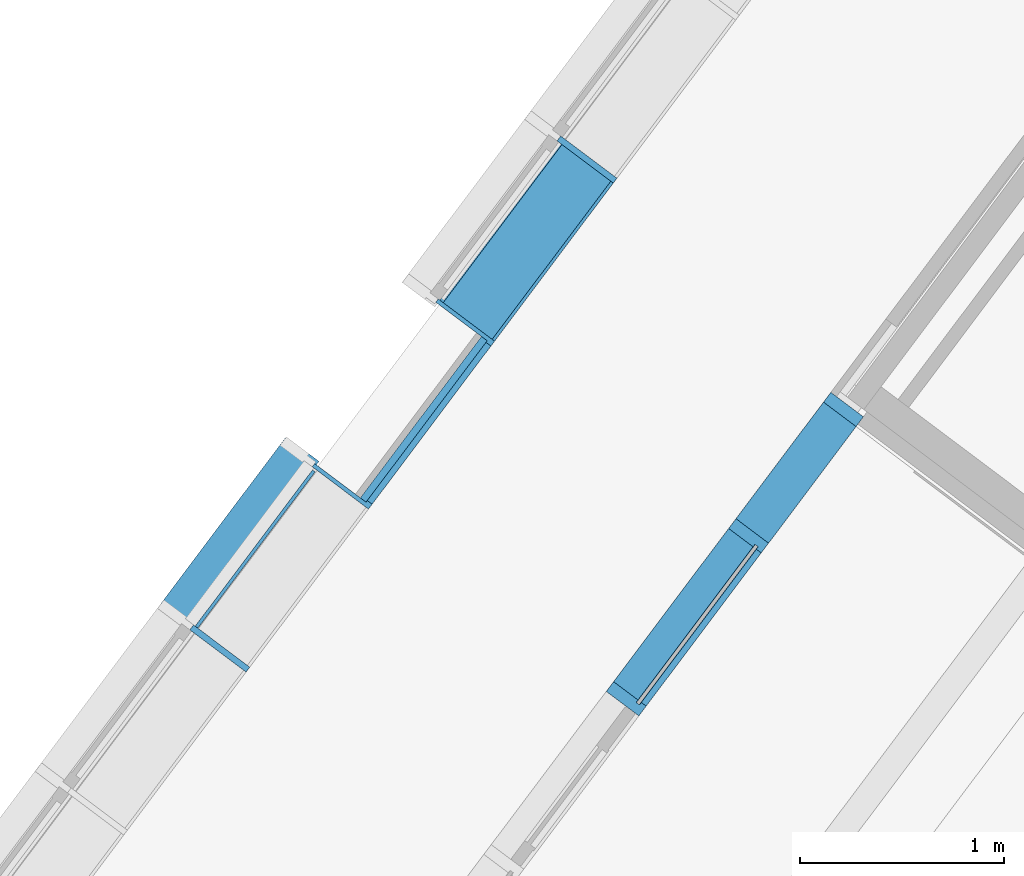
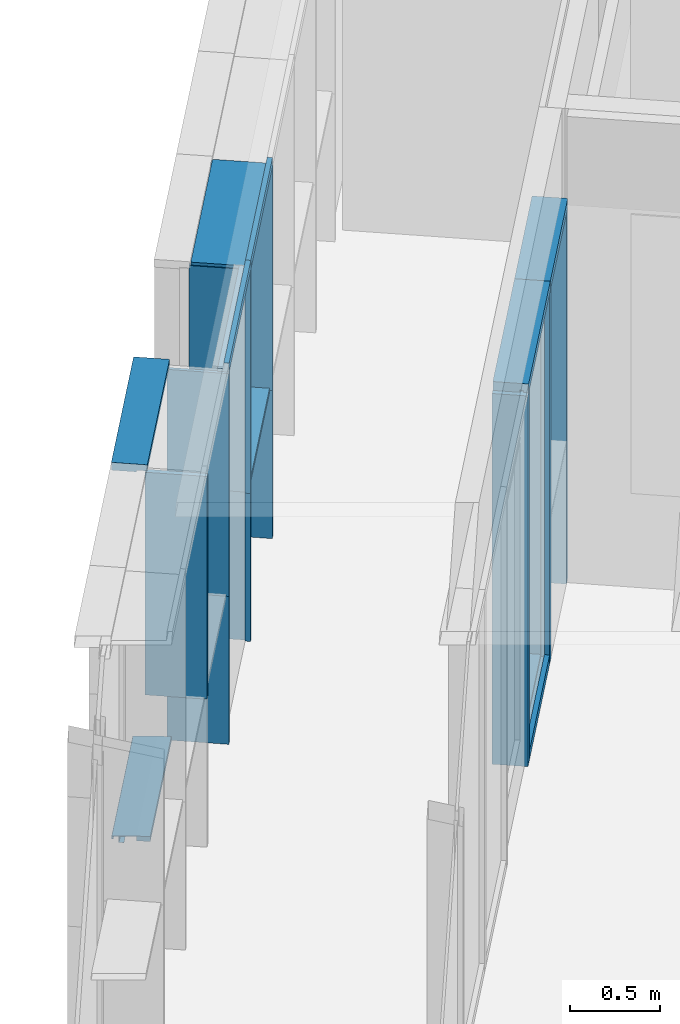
# One storey, part 60 of 243: 18 members, 3 elements without a shape of their own.
"""IFC2X3 building model written with IfcOpenShell, lengths in metres."""

from ifc_helpers import new_model, entity, si_unit, converted_unit, derived_unit, direction, frame, frame_2d, origin, place, context, subcontext, project, spatial, polyline, circle_curve, parameter, trimmed, segment, composite_curve, rectangle, outline, extrude, source, transform, mapped, material, type_object, type_shapes, element, aggregate, save


model = new_model("IFC2X3")

# Units and contexts
model_context = context("Model", 3, precision=1e-05, world=origin(), true_north=direction((6.123031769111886e-17, 1.0)))
body_context = subcontext(model_context, "Body", "Model", "MODEL_VIEW")
ifc_project = project(units=[si_unit("LENGTHUNIT", "METRE"), si_unit("AREAUNIT", "SQUARE_METRE"), si_unit("VOLUMEUNIT", "CUBIC_METRE"), converted_unit("PLANEANGLEUNIT", "DEGREE", entity("IfcRatioMeasure", 0.017453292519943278), si_unit("PLANEANGLEUNIT", "RADIAN"), dimensions=[0, 0, 0, 0, 0, 0, 0]), si_unit("MASSUNIT", "GRAM", prefix="KILO"), derived_unit("MASSDENSITYUNIT", [(si_unit("MASSUNIT", "GRAM", prefix="KILO"), 1), (si_unit("LENGTHUNIT", "METRE"), -3)]), derived_unit("IONCONCENTRATIONUNIT", [(si_unit("MASSUNIT", "GRAM", prefix="KILO"), 1), (si_unit("LENGTHUNIT", "METRE"), -3)]), derived_unit("MOMENTOFINERTIAUNIT", [(si_unit("LENGTHUNIT", "METRE"), 4)]), si_unit("TIMEUNIT", "SECOND"), si_unit("FREQUENCYUNIT", "HERTZ"), si_unit("THERMODYNAMICTEMPERATUREUNIT", "DEGREE_CELSIUS"), derived_unit("THERMALTRANSMITTANCEUNIT", [(si_unit("MASSUNIT", "GRAM", prefix="KILO"), 1), (si_unit("THERMODYNAMICTEMPERATUREUNIT", "KELVIN"), -1), (si_unit("TIMEUNIT", "SECOND"), -3)]), derived_unit("THERMALCONDUCTANCEUNIT", [(si_unit("MASSUNIT", "GRAM", prefix="KILO"), 1), (si_unit("THERMODYNAMICTEMPERATUREUNIT", "KELVIN"), -1), (si_unit("TIMEUNIT", "SECOND"), -3), (si_unit("LENGTHUNIT", "METRE"), 1)]), derived_unit("VOLUMETRICFLOWRATEUNIT", [(si_unit("LENGTHUNIT", "METRE"), 3), (si_unit("TIMEUNIT", "SECOND"), -1)]), derived_unit("MASSFLOWRATEUNIT", [(si_unit("MASSUNIT", "GRAM", prefix="KILO"), 1), (si_unit("TIMEUNIT", "SECOND"), -1)]), derived_unit("ROTATIONALFREQUENCYUNIT", [(si_unit("TIMEUNIT", "SECOND"), -1)]), si_unit("ELECTRICCURRENTUNIT", "AMPERE"), si_unit("ELECTRICVOLTAGEUNIT", "VOLT"), si_unit("POWERUNIT", "WATT"), si_unit("FORCEUNIT", "NEWTON", prefix="KILO"), si_unit("ILLUMINANCEUNIT", "LUX"), si_unit("LUMINOUSFLUXUNIT", "LUMEN"), si_unit("LUMINOUSINTENSITYUNIT", "CANDELA"), derived_unit("USERDEFINED", [(si_unit("MASSUNIT", "GRAM", prefix="KILO"), -1), (si_unit("LENGTHUNIT", "METRE"), -2), (si_unit("TIMEUNIT", "SECOND"), 3), (si_unit("LUMINOUSFLUXUNIT", "LUMEN"), 1)]), derived_unit("USERDEFINED", [(si_unit("MASSUNIT", "GRAM", prefix="KILO"), 1), (si_unit("TIMEUNIT", "SECOND"), -3), (si_unit("LENGTHUNIT", "METRE"), 3), (si_unit("ELECTRICCURRENTUNIT", "AMPERE"), -2)]), derived_unit("SOUNDPOWERUNIT", [(si_unit("MASSUNIT", "GRAM", prefix="KILO"), 1), (si_unit("TIMEUNIT", "SECOND"), -3), (si_unit("LENGTHUNIT", "METRE"), 2)]), derived_unit("SOUNDPRESSUREUNIT", [(si_unit("MASSUNIT", "GRAM", prefix="KILO"), 1), (si_unit("LENGTHUNIT", "METRE"), -1), (si_unit("TIMEUNIT", "SECOND"), -2)]), derived_unit("LINEARVELOCITYUNIT", [(si_unit("LENGTHUNIT", "METRE"), 1), (si_unit("TIMEUNIT", "SECOND"), -1)]), si_unit("PRESSUREUNIT", "PASCAL"), derived_unit("USERDEFINED", [(si_unit("MASSUNIT", "GRAM", prefix="KILO"), 1), (si_unit("LENGTHUNIT", "METRE"), -2), (si_unit("TIMEUNIT", "SECOND"), -2)]), derived_unit("LINEARFORCEUNIT", [(si_unit("MASSUNIT", "GRAM", prefix="KILO"), 1), (si_unit("TIMEUNIT", "SECOND"), -2)]), derived_unit("PLANARFORCEUNIT", [(si_unit("MASSUNIT", "GRAM", prefix="KILO"), 1), (si_unit("LENGTHUNIT", "METRE"), -1), (si_unit("TIMEUNIT", "SECOND"), -2)]), derived_unit("SPECIFICHEATCAPACITYUNIT", [(si_unit("THERMODYNAMICTEMPERATUREUNIT", "KELVIN"), -1), (si_unit("LENGTHUNIT", "METRE"), 2), (si_unit("TIMEUNIT", "SECOND"), -2)]), derived_unit("HEATINGVALUEUNIT", [(si_unit("LENGTHUNIT", "METRE"), 2), (si_unit("TIMEUNIT", "SECOND"), -2)]), derived_unit("VAPORPERMEABILITYUNIT", [(si_unit("LENGTHUNIT", "METRE"), -1), (si_unit("TIMEUNIT", "SECOND"), 1)]), derived_unit("DYNAMICVISCOSITYUNIT", [(si_unit("MASSUNIT", "GRAM", prefix="KILO"), 1), (si_unit("TIMEUNIT", "SECOND"), -1), (si_unit("LENGTHUNIT", "METRE"), -1)]), derived_unit("THERMALEXPANSIONCOEFFICIENTUNIT", [(si_unit("THERMODYNAMICTEMPERATUREUNIT", "KELVIN"), -1)]), derived_unit("MODULUSOFELASTICITYUNIT", [(si_unit("MASSUNIT", "GRAM", prefix="KILO"), 1), (si_unit("LENGTHUNIT", "METRE"), -1), (si_unit("TIMEUNIT", "SECOND"), -2)]), derived_unit("ISOTHERMALMOISTURECAPACITYUNIT", [(si_unit("LENGTHUNIT", "METRE"), 3), (si_unit("MASSUNIT", "GRAM", prefix="KILO"), -1)]), derived_unit("MOISTUREDIFFUSIVITYUNIT", [(si_unit("TIMEUNIT", "SECOND"), -1), (si_unit("LENGTHUNIT", "METRE"), 2)])], contexts=[model_context])

# Site, building, storey
site_placement = place(None, frame((0.0, 0.0, 235.0), z_axis=(0.0, 0.0, 1.0), x_axis=(-0.7996477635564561, 0.6004693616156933, 0.0)))
site = spatial("IfcSite", under=ifc_project, at=site_placement, Name="Default", CompositionType="ELEMENT")
building_placement = place(site_placement, origin())
building = spatial("IfcBuilding", under=site, at=building_placement, CompositionType="ELEMENT")
storey_placement = place(building_placement, origin())
storey = spatial("IfcBuildingStorey", under=building, at=storey_placement, Name="P0- Escola", CompositionType="ELEMENT", Elevation=0.0)

# Curtain wall, members
curtain_wall_type_1 = type_object("IfcCurtainWallType", Name="Muro cortina:MC- INT- a1", PredefinedType="NOTDEFINED")
curtain_wall_1_placement = place(storey_placement, origin())
curtain_wall_1 = element("IfcCurtainWall", 1, at=curtain_wall_1_placement, inside=storey, type_object=curtain_wall_type_1, Name="Muro cortina:MC- INT- a1", ObjectType="Muro cortina:MC- INT- a1")
ifc_material_1 = material(Name="_Fusta massisa- T1")
member_type_1 = type_object("IfcMemberType", Name="Montante rectangular:MC- Fusta- 20x6 cm- Neutre", PredefinedType="MULLION", material=ifc_material_1)
shared_shape_1 = source(origin(), body_context, "Body", "SweptSolid", [
    extrude(rectangle(XDim=0.2, YDim=0.060000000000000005, at=frame_2d((-4.85722573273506e-17, -3.469446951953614e-18), x_axis=(1.0, 0.0))), frame((-0.03, -0.060000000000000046, -0.8050000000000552), z_axis=(0.0, 0.0, 1.0), x_axis=(0.0, -1.0, 0.0)), (0.0, 0.0, 1.0), 0.8050000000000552),
])
type_shapes(member_type_1, [shared_shape_1])
member_1_placement = place(curtain_wall_1_placement, frame((72.72014768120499, -36.22018997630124, 2.565), z_axis=(0.0, -1.0, 0.0), x_axis=(0.0, 0.0, 1.0)))
member_1 = element("IfcMember", 2, at=member_1_placement, type_object=member_type_1, material=ifc_material_1, Name="Montante rectangular:MC- Fusta- 20x6 cm- Neutre", ObjectType="Montante rectangular:MC- Fusta- 20x6 cm- Neutre", context=body_context, shape_type="MappedRepresentation", body=[
    mapped(shared_shape_1, transform((0.0, 0.0, 0.0), scale=1.0)),
])
member_type_2 = type_object("IfcMemberType", Name="Montante rectangular:MC- Fusta- 20x6 cm- Neutre", PredefinedType="MULLION", material=ifc_material_1)
shared_shape_2 = source(origin(), body_context, "Body", "SweptSolid", [
    extrude(rectangle(XDim=0.2, YDim=0.060000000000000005, at=frame_2d((-4.85722573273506e-17, -3.469446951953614e-18), x_axis=(1.0, 0.0))), frame((-0.03, -0.060000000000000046, -2.5050000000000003), z_axis=(0.0, 0.0, 1.0), x_axis=(0.0, -1.0, 0.0)), (0.0, 0.0, 1.0), 2.5050000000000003),
])
type_shapes(member_type_2, [shared_shape_2])
member_2_placement = place(curtain_wall_1_placement, frame((72.72014768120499, -36.22018997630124, 0.0), z_axis=(0.0, 0.0, -1.0), x_axis=(0.0, -1.0, 0.0)))
member_2 = element("IfcMember", 3, at=member_2_placement, type_object=member_type_2, material=ifc_material_1, Name="Montante rectangular:MC- Fusta- 20x6 cm- Neutre", ObjectType="Montante rectangular:MC- Fusta- 20x6 cm- Neutre", context=body_context, shape_type="MappedRepresentation", body=[
    mapped(shared_shape_2, transform((0.0, 0.0, 0.0), scale=1.0)),
])
member_type_3 = type_object("IfcMemberType", Name="Montante rectangular:MC- Fusta- 20x6 cm- Esquerra", PredefinedType="MULLION", material=ifc_material_1)
shared_shape_3 = source(origin(), body_context, "Body", "SweptSolid", [
    extrude(outline(polyline([(-0.07000000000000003, -0.01875000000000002), (-0.04000000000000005, -0.01875000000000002), (-0.04000000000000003, -0.0037500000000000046), (-0.020000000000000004, -0.0037500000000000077), (-0.02, -0.018750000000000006), (0.13, -0.018749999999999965), (0.12999999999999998, 0.04125000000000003), (-0.06999999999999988, 0.04124999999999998), (-0.07000000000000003, -0.01875000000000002)])), frame((-0.041249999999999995, -0.03, -1.0), z_axis=(0.0, 0.0, 1.0), x_axis=(0.0, -1.0, 0.0)), (0.0, 0.0, 1.0), 0.9999999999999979),
])
type_shapes(member_type_3, [shared_shape_3])
member_3_placement = place(curtain_wall_1_placement, frame((72.72014768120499, -35.415189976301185, 2.565), z_axis=(0.0, -1.0, 0.0), x_axis=(0.0, 0.0, 1.0)))
member_3 = element("IfcMember", 4, at=member_3_placement, type_object=member_type_3, material=ifc_material_1, Name="Montante rectangular:MC- Fusta- 20x6 cm- Esquerra", ObjectType="Montante rectangular:MC- Fusta- 20x6 cm- Esquerra", context=body_context, shape_type="MappedRepresentation", body=[
    mapped(shared_shape_3, transform((0.0, 0.0, 0.0), scale=1.0)),
])
member_type_4 = type_object("IfcMemberType", Name="Montante rectangular:MC- Fusta- 20x6 cm- Esquerra", PredefinedType="MULLION", material=ifc_material_1)
shared_shape_4 = source(origin(), body_context, "Body", "SweptSolid", [
    extrude(outline(polyline([(-0.07000000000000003, -0.01875000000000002), (-0.04000000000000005, -0.01875000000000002), (-0.04000000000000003, -0.0037500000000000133), (-0.020000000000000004, -0.0037500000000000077), (-0.02, -0.018750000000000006), (0.13, -0.018749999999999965), (0.12999999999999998, 0.04125000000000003), (-0.06999999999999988, 0.04124999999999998), (-0.07000000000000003, -0.01875000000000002)])), frame((-0.01124999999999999, -0.03, -2.5050000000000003), z_axis=(0.0, 0.0, 1.0), x_axis=(0.0, -1.0, 0.0)), (0.0, 0.0, 1.0), 2.5050000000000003),
])
type_shapes(member_type_4, [shared_shape_4])
member_4_placement = place(curtain_wall_1_placement, frame((72.72014768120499, -35.415189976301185, 0.0), z_axis=(0.0, 0.0, -1.0), x_axis=(0.0, -1.0, 0.0)))
member_4 = element("IfcMember", 5, at=member_4_placement, type_object=member_type_4, material=ifc_material_1, Name="Montante rectangular:MC- Fusta- 20x6 cm- Esquerra", ObjectType="Montante rectangular:MC- Fusta- 20x6 cm- Esquerra", context=body_context, shape_type="MappedRepresentation", body=[
    mapped(shared_shape_4, transform((0.0, 0.0, 0.0), scale=1.0)),
])
member_type_5 = type_object("IfcMemberType", Name="Montante rectangular:MC- Fusta- 20x6 cm- Dreta", PredefinedType="MULLION", material=ifc_material_1)
shared_shape_5 = source(origin(), body_context, "Body", "SweptSolid", [
    extrude(outline(polyline([(-0.07000000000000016, -0.041249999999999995), (0.13000000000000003, -0.041249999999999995), (0.13000000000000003, 0.01875), (-0.019999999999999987, 0.01875), (-0.019999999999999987, 0.00375), (-0.04000000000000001, 0.00375), (-0.03999999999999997, 0.01875), (-0.06999999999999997, 0.01875), (-0.07000000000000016, -0.041249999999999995)])), frame((0.011250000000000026, -0.02999999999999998, -2.5050000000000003), z_axis=(0.0, 0.0, 1.0), x_axis=(0.0, -1.0, 0.0)), (0.0, 0.0, 1.0), 2.5050000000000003),
])
type_shapes(member_type_5, [shared_shape_5])
member_5_placement = place(curtain_wall_1_placement, frame((72.72014768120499, -34.41518997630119, 0.0), z_axis=(0.0, 0.0, -1.0), x_axis=(0.0, -1.0, 0.0)))
member_5 = element("IfcMember", 6, at=member_5_placement, type_object=member_type_5, material=ifc_material_1, Name="Montante rectangular:MC- Fusta- 20x6 cm- Dreta", ObjectType="Montante rectangular:MC- Fusta- 20x6 cm- Dreta", context=body_context, shape_type="MappedRepresentation", body=[
    mapped(shared_shape_5, transform((0.0, 0.0, 0.0), scale=1.0)),
])
member_type_6 = type_object("IfcMemberType", Name="Montante rectangular:MC- Fusta- 20x6 cm- Inferior", PredefinedType="MULLION", material=ifc_material_1)
shared_shape_6 = source(origin(), body_context, "Body", "SweptSolid", [
    extrude(outline(polyline([(-0.06999999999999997, -0.018750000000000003), (-0.039999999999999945, -0.018750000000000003), (-0.03999999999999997, -0.003750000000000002), (-0.019999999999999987, -0.0037500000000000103), (-0.019999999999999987, -0.018750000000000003), (0.13000000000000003, -0.018750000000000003), (0.13000000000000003, 0.041249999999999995), (-0.07000000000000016, 0.041249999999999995), (-0.06999999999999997, -0.018750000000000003)])), frame((-0.041249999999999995, -0.02999999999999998, -0.9399999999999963), z_axis=(0.0, 0.0, 1.0), x_axis=(0.0, -1.0, 0.0)), (0.0, 0.0, 1.0), 0.9399999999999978),
])
type_shapes(member_type_6, [shared_shape_6])
member_6_placement = place(curtain_wall_1_placement, frame((72.72014768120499, -34.445189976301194, 0.0), z_axis=(0.0, 1.0, 0.0), x_axis=(0.0, 0.0, -1.0)))
member_6 = element("IfcMember", 7, at=member_6_placement, type_object=member_type_6, material=ifc_material_1, Name="Montante rectangular:MC- Fusta- 20x6 cm- Inferior", ObjectType="Montante rectangular:MC- Fusta- 20x6 cm- Inferior", context=body_context, shape_type="MappedRepresentation", body=[
    mapped(shared_shape_6, transform((0.0, 0.0, 0.0), scale=1.0)),
])
aggregate(curtain_wall_1, [member_1, member_2, member_3, member_4, member_5, member_6])

curtain_wall_type_2 = type_object("IfcCurtainWallType", Name="Muro cortina:MC- INT- k2", PredefinedType="NOTDEFINED")
curtain_wall_2_placement = place(storey_placement, origin())
curtain_wall_2 = element("IfcCurtainWall", 8, at=curtain_wall_2_placement, inside=storey, type_object=curtain_wall_type_2, Name="Muro cortina:MC- INT- k2", ObjectType="Muro cortina:MC- INT- k2")
member_type_7 = type_object("IfcMemberType", Name="Montante rectangular:MC- Fusta- 35x3 cm- Pati aules- Remat superior", PredefinedType="MULLION", material=ifc_material_1)
shared_shape_7 = source(origin(), body_context, "Body", "SweptSolid", [
    extrude(outline(polyline([(-0.12166666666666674, -0.02666666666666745), (0.21333333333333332, -0.02666666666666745), (0.2133333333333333, -0.006666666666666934), (-0.09166666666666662, -0.006666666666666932), (-0.09166666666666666, 0.03333333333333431), (-0.12166666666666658, 0.03333333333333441), (-0.12166666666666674, -0.02666666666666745)])), frame((-0.033333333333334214, -0.026666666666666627, -1.0), z_axis=(0.0, 0.0, 1.0), x_axis=(0.0, -1.0, 0.0)), (0.0, 0.0, 1.0), 0.9999999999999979),
])
type_shapes(member_type_7, [shared_shape_7])
member_7_placement = place(curtain_wall_2_placement, frame((74.44514768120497, -36.4151917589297, 2.565), z_axis=(0.0, -1.0, 0.0), x_axis=(0.0, 0.0, 1.0)))
member_7 = element("IfcMember", 9, at=member_7_placement, type_object=member_type_7, material=ifc_material_1, Name="Montante rectangular:MC- Fusta- 35x3 cm- Pati aules- Remat superior", ObjectType="Montante rectangular:MC- Fusta- 35x3 cm- Pati aules- Remat superior", context=body_context, shape_type="MappedRepresentation", body=[
    mapped(shared_shape_7, transform((0.0, 0.0, 0.0), scale=1.0)),
])
member_type_8 = type_object("IfcMemberType", Name="Montante rectangular:MC- Fusta- 35x3 cm- Centre", PredefinedType="MULLION", material=ifc_material_1)
shared_shape_8 = source(origin(), body_context, "Body", "SweptSolid", [
    extrude(rectangle(XDim=0.3450000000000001, YDim=0.030000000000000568, at=frame_2d((0.0, -1.3964523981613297e-16), x_axis=(1.0, 0.0))), frame((0.0, -0.07750000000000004, -1.0), z_axis=(0.0, 0.0, 1.0), x_axis=(0.0, -1.0, 0.0)), (0.0, 0.0, 1.0), 1.0),
])
type_shapes(member_type_8, [shared_shape_8])
member_8_placement = place(curtain_wall_2_placement, frame((74.44514768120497, -36.4151917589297, 0.0), z_axis=(0.0, 0.0, -1.0), x_axis=(0.0, -1.0, 0.0)))
member_8 = element("IfcMember", 10, at=member_8_placement, type_object=member_type_8, material=ifc_material_1, Name="Montante rectangular:MC- Fusta- 35x3 cm- Centre", ObjectType="Montante rectangular:MC- Fusta- 35x3 cm- Centre", context=body_context, shape_type="MappedRepresentation", body=[
    mapped(shared_shape_8, transform((0.0, 0.0, 0.0), scale=1.0)),
])
member_type_9 = type_object("IfcMemberType", Name="Montante rectangular:MC- Fusta- 35x3 cm- Pati aules- Remat dreta", PredefinedType="MULLION", material=ifc_material_1)
shared_shape_9 = source(origin(), body_context, "Body", "SweptSolid", [
    extrude(outline(polyline([(-0.12500000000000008, -0.01666666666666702), (0.22, -0.01666666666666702), (0.22000000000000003, 0.003333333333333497), (-0.09499999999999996, 0.003333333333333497), (-0.09499999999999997, 0.013333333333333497), (-0.12500000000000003, 0.013333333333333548), (-0.12500000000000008, -0.01666666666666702)])), frame((0.00166666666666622, -0.03000000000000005, -1.0), z_axis=(0.0, 0.0, 1.0), x_axis=(0.0, -1.0, 0.0)), (0.0, 0.0, 1.0), 1.0),
])
type_shapes(member_type_9, [shared_shape_9])
member_9_placement = place(curtain_wall_2_placement, frame((74.44514768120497, -34.4151917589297, 0.0), z_axis=(0.0, 0.0, -1.0), x_axis=(0.0, -1.0, 0.0)))
member_9 = element("IfcMember", 11, at=member_9_placement, type_object=member_type_9, material=ifc_material_1, Name="Montante rectangular:MC- Fusta- 35x3 cm- Pati aules- Remat dreta", ObjectType="Montante rectangular:MC- Fusta- 35x3 cm- Pati aules- Remat dreta", context=body_context, shape_type="MappedRepresentation", body=[
    mapped(shared_shape_9, transform((0.0, 0.0, 0.0), scale=1.0)),
])
member_type_10 = type_object("IfcMemberType", Name="Montante rectangular:MC- Fusta- 35x3 cm- Pati aules- Remat superior pilar", PredefinedType="MULLION", material=ifc_material_1)
shared_shape_10 = source(origin(), body_context, "Body", "SweptSolid", [
    extrude(outline(polyline([(-0.03166666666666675, -0.02666666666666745), (0.03333333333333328, -0.02666666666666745), (0.03333333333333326, -0.00666666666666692), (-0.0016666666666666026, -0.006666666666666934), (-0.0016666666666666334, 0.03333333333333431), (-0.03166666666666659, 0.03333333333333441), (-0.03166666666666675, -0.02666666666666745)])), frame((-0.03333333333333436, 0.06333333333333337, -1.0), z_axis=(0.0, 0.0, 1.0), x_axis=(0.0, -1.0, 0.0)), (0.0, 0.0, 1.0), 0.9999999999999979),
])
type_shapes(member_type_10, [shared_shape_10])
member_10_placement = place(curtain_wall_2_placement, frame((74.44514768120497, -35.4151917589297, 2.565), z_axis=(0.0, -1.0, 0.0), x_axis=(0.0, 0.0, 1.0)))
member_10 = element("IfcMember", 12, at=member_10_placement, type_object=member_type_10, material=ifc_material_1, Name="Montante rectangular:MC- Fusta- 35x3 cm- Pati aules- Remat superior pilar", ObjectType="Montante rectangular:MC- Fusta- 35x3 cm- Pati aules- Remat superior pilar", context=body_context, shape_type="MappedRepresentation", body=[
    mapped(shared_shape_10, transform((0.0, 0.0, 0.0), scale=1.0)),
])
member_type_11 = type_object("IfcMemberType", Name="Montante rectangular:MC- Fusta- 35x3 cm- Pati aules- Remat esquerra", PredefinedType="MULLION", material=ifc_material_1)
shared_shape_11 = source(origin(), body_context, "Body", "SweptSolid", [
    extrude(outline(polyline([(-0.12500000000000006, -0.013333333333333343), (-0.09500000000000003, -0.013333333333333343), (-0.09499999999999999, -0.0033333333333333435), (0.22000000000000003, -0.003333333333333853), (0.22000000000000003, 0.016666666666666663), (-0.12500000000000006, 0.01666666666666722), (-0.12500000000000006, -0.013333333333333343)])), frame((-0.00166666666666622, -0.03000000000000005, -1.0), z_axis=(0.0, 0.0, 1.0), x_axis=(0.0, -1.0, 0.0)), (0.0, 0.0, 1.0), 1.0),
])
type_shapes(member_type_11, [shared_shape_11])
member_11_placement = place(curtain_wall_2_placement, frame((74.44514768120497, -35.4151917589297, 0.0), z_axis=(0.0, 0.0, -1.0), x_axis=(0.0, -1.0, 0.0)))
member_11 = element("IfcMember", 13, at=member_11_placement, type_object=member_type_11, material=ifc_material_1, Name="Montante rectangular:MC- Fusta- 35x3 cm- Pati aules- Remat esquerra", ObjectType="Montante rectangular:MC- Fusta- 35x3 cm- Pati aules- Remat esquerra", context=body_context, shape_type="MappedRepresentation", body=[
    mapped(shared_shape_11, transform((0.0, 0.0, 0.0), scale=1.0)),
])
member_type_12 = type_object("IfcMemberType", Name="Montante rectangular:MC- Fusta- 35x3 cm- Pati aules- Prestatge", PredefinedType="MULLION", material=ifc_material_1)
shared_shape_12 = source(origin(), body_context, "Body", "SweptSolid", [
    extrude(rectangle(XDim=0.30000000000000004, YDim=0.03000000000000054, at=frame_2d((0.0, -1.231653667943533e-16), x_axis=(1.0, 0.0))), frame((0.0, -0.07000000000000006, -0.9699999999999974), z_axis=(0.0, 0.0, 1.0), x_axis=(0.0, -1.0, 0.0)), (0.0, 0.0, 1.0), 0.969999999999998),
])
type_shapes(member_type_12, [shared_shape_12])
member_12_placement = place(curtain_wall_2_placement, frame((74.44514768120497, -36.400191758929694, 1.0), z_axis=(0.0, -1.0, 0.0), x_axis=(0.0, 0.0, 1.0)))
member_12 = element("IfcMember", 14, at=member_12_placement, type_object=member_type_12, material=ifc_material_1, Name="Montante rectangular:MC- Fusta- 35x3 cm- Pati aules- Prestatge", ObjectType="Montante rectangular:MC- Fusta- 35x3 cm- Pati aules- Prestatge", context=body_context, shape_type="MappedRepresentation", body=[
    mapped(shared_shape_12, transform((0.0, 0.0, 0.0), scale=1.0)),
])
member_type_13 = type_object("IfcMemberType", Name="Montante rectangular:MC- Fusta- 35x3 cm- Centre", PredefinedType="MULLION", material=ifc_material_1)
shared_shape_13 = source(origin(), body_context, "Body", "SweptSolid", [
    extrude(rectangle(XDim=0.3450000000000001, YDim=0.030000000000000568, at=frame_2d((0.0, -1.3964523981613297e-16), x_axis=(1.0, 0.0))), frame((0.0, -0.07750000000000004, -1.504999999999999), z_axis=(0.0, 0.0, 1.0), x_axis=(0.0, -1.0, 0.0)), (0.0, 0.0, 1.0), 1.504999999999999),
])
type_shapes(member_type_13, [shared_shape_13])
member_13_placement = place(curtain_wall_2_placement, frame((74.44514768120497, -33.4151917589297, 1.0), z_axis=(0.0, 0.0, -1.0), x_axis=(0.0, -1.0, 0.0)))
member_13 = element("IfcMember", 15, at=member_13_placement, type_object=member_type_13, material=ifc_material_1, Name="Montante rectangular:MC- Fusta- 35x3 cm- Centre", ObjectType="Montante rectangular:MC- Fusta- 35x3 cm- Centre", context=body_context, shape_type="MappedRepresentation", body=[
    mapped(shared_shape_13, transform((0.0, 0.0, 0.0), scale=1.0)),
])
member_14_placement = place(curtain_wall_2_placement, frame((74.44514768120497, -36.4151917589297, 1.0), z_axis=(0.0, 0.0, -1.0), x_axis=(0.0, -1.0, 0.0)))
member_14 = element("IfcMember", 16, at=member_14_placement, type_object=member_type_13, material=ifc_material_1, Name="Montante rectangular:MC- Fusta- 35x3 cm- Centre", ObjectType="Montante rectangular:MC- Fusta- 35x3 cm- Centre", context=body_context, shape_type="MappedRepresentation", body=[
    mapped(shared_shape_13, transform((0.0, 0.0, 0.0), scale=1.0)),
])
member_type_14 = type_object("IfcMemberType", Name="Montante rectangular:MC- Fusta- 35x3 cm- Pati aules- Remat dreta", PredefinedType="MULLION", material=ifc_material_1)
shared_shape_14 = source(origin(), body_context, "Body", "SweptSolid", [
    extrude(outline(polyline([(-0.12500000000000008, -0.01666666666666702), (0.22, -0.01666666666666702), (0.22000000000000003, 0.003333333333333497), (-0.09499999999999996, 0.003333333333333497), (-0.09499999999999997, 0.013333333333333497), (-0.12500000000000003, 0.013333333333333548), (-0.12500000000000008, -0.01666666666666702)])), frame((0.00166666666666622, -0.03000000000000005, -1.504999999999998), z_axis=(0.0, 0.0, 1.0), x_axis=(0.0, -1.0, 0.0)), (0.0, 0.0, 1.0), 1.504999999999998),
])
type_shapes(member_type_14, [shared_shape_14])
member_15_placement = place(curtain_wall_2_placement, frame((74.44514768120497, -34.4151917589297, 1.0), z_axis=(0.0, 0.0, -1.0), x_axis=(0.0, -1.0, 0.0)))
member_15 = element("IfcMember", 17, at=member_15_placement, type_object=member_type_14, material=ifc_material_1, Name="Montante rectangular:MC- Fusta- 35x3 cm- Pati aules- Remat dreta", ObjectType="Montante rectangular:MC- Fusta- 35x3 cm- Pati aules- Remat dreta", context=body_context, shape_type="MappedRepresentation", body=[
    mapped(shared_shape_14, transform((0.0, 0.0, 0.0), scale=1.0)),
])
member_type_15 = type_object("IfcMemberType", Name="Montante rectangular:MC- Fusta- 35x3 cm- Pati aules- Remat esquerra", PredefinedType="MULLION", material=ifc_material_1)
shared_shape_15 = source(origin(), body_context, "Body", "SweptSolid", [
    extrude(outline(polyline([(-0.12500000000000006, -0.013333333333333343), (-0.09500000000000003, -0.013333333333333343), (-0.09499999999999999, -0.0033333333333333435), (0.22000000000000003, -0.003333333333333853), (0.22000000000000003, 0.016666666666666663), (-0.12500000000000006, 0.01666666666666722), (-0.12500000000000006, -0.013333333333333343)])), frame((-0.00166666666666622, -0.03000000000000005, -1.504999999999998), z_axis=(0.0, 0.0, 1.0), x_axis=(0.0, -1.0, 0.0)), (0.0, 0.0, 1.0), 1.504999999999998),
])
type_shapes(member_type_15, [shared_shape_15])
member_16_placement = place(curtain_wall_2_placement, frame((74.44514768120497, -35.4151917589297, 1.0), z_axis=(0.0, 0.0, -1.0), x_axis=(0.0, -1.0, 0.0)))
member_16 = element("IfcMember", 18, at=member_16_placement, type_object=member_type_15, material=ifc_material_1, Name="Montante rectangular:MC- Fusta- 35x3 cm- Pati aules- Remat esquerra", ObjectType="Montante rectangular:MC- Fusta- 35x3 cm- Pati aules- Remat esquerra", context=body_context, shape_type="MappedRepresentation", body=[
    mapped(shared_shape_15, transform((0.0, 0.0, 0.0), scale=1.0)),
])
aggregate(curtain_wall_2, [member_9, member_10, member_11, member_13, member_15, member_16, member_7, member_8, member_14, member_12])

curtain_wall_type_3 = type_object("IfcCurtainWallType", Name="Muro cortina:MC- EXT- MC5", PredefinedType="NOTDEFINED")
curtain_wall_3_placement = place(storey_placement, origin())
curtain_wall_3 = element("IfcCurtainWall", 19, at=curtain_wall_3_placement, inside=storey, type_object=curtain_wall_type_3, Name="Muro cortina:MC- EXT- MC5", ObjectType="Muro cortina:MC- EXT- MC5")
ifc_material_2 = material(Name="_Alumini- T1- Perfil")
member_type_16 = type_object("IfcMemberType", Name="Montante rectangular:MC- Alu- 140x52,5 cm- Fa patis- inferior", PredefinedType="MULLION", material=ifc_material_2)
shared_shape_16 = source(origin(), body_context, "Body", "SweptSolid", [
    extrude(outline(composite_curve([segment(polyline([(-0.144167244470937, -0.025867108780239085), (-0.12786724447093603, -0.02586710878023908)]), True, "CONTINUOUS"), segment(polyline([(-0.12786724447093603, -0.02586710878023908), (-0.12786724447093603, -0.023167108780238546)]), True, "CONTINUOUS"), segment(polyline([(-0.12786724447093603, -0.023167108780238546), (-0.0678672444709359, -0.023167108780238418)]), True, "CONTINUOUS"), segment(polyline([(-0.0678672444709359, -0.023167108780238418), (0.07031215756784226, -0.010722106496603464)]), True, "CONTINUOUS"), segment(trimmed(circle_curve(frame_2d((0.07013275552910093, -0.008730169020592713), x_axis=(0.0897010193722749, -0.9959687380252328)), 0.0019999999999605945), [parameter(0.0)], [parameter(84.8535928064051)], True, "PARAMETER"), True, "CONTINUOUS"), segment(polyline([(0.07213275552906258, -0.008730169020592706), (0.07213275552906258, 0.006266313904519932)]), True, "CONTINUOUS"), segment(trimmed(circle_curve(frame_2d((0.07013275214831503, 0.006266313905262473), x_axis=(1.0, 0.0)), 0.0020000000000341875), [parameter(0.0)], [parameter(90.00000002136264)], True, "PARAMETER"), True, "CONTINUOUS"), segment(polyline([(0.070132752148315, 0.008266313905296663), (0.06213275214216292, 0.008266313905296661)]), True, "CONTINUOUS"), segment(polyline([(0.06213275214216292, 0.008266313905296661), (0.06213275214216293, 0.006266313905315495)]), True, "CONTINUOUS"), segment(polyline([(0.06213275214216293, 0.006266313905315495), (0.06963275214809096, 0.006266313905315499)]), True, "CONTINUOUS"), segment(trimmed(circle_curve(frame_2d((0.06963275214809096, 0.005766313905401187), x_axis=(0.0, 1.0)), 0.0004999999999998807), [parameter(269.9999999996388)], [parameter(0.0)], True, "PARAMETER"), False, "CONTINUOUS"), segment(polyline([(0.07013275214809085, 0.005766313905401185), (0.07013275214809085, -0.008730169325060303)]), True, "CONTINUOUS"), segment(polyline([(0.07013275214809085, -0.008730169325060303), (0.03213275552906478, -0.012152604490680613)]), True, "CONTINUOUS"), segment(polyline([(0.03213275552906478, -0.0121526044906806), (0.03213275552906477, 0.029132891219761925)]), True, "CONTINUOUS"), segment(polyline([(0.03213275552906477, 0.029132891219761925), (0.0021327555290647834, 0.029132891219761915)]), True, "CONTINUOUS"), segment(polyline([(0.0021327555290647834, 0.029132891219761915), (0.0021327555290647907, 0.02713289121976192)]), True, "CONTINUOUS"), segment(polyline([(0.0021327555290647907, 0.02713289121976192), (0.03013275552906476, 0.02713289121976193)]), True, "CONTINUOUS"), segment(polyline([(0.03013275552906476, 0.027132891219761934), (0.03013275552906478, -0.012332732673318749)]), True, "CONTINUOUS"), segment(polyline([(0.03013275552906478, -0.012332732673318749), (-0.06786724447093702, -0.021159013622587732)]), True, "CONTINUOUS"), segment(polyline([(-0.06786724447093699, -0.02115901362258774), (-0.067867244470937, 0.009132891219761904)]), True, "CONTINUOUS"), segment(polyline([(-0.06786724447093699, 0.009132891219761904), (-0.14416724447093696, 0.009132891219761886)]), True, "CONTINUOUS"), segment(polyline([(-0.14416724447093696, 0.009132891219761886), (-0.144167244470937, -0.025867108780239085)]), True, "CONTINUOUS")], self_intersect=False)), frame((-0.029132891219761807, -0.06786724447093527, -0.9737499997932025), z_axis=(0.0, 0.0, 1.0), x_axis=(0.0, -1.0, 0.0)), (0.0, 0.0, 1.0), 0.9737499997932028),
])
type_shapes(member_type_16, [shared_shape_16])
member_17_placement = place(curtain_wall_3_placement, frame((74.74514768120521, -33.41519175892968, -0.02), z_axis=(0.0, 1.0, 0.0), x_axis=(0.0, 0.0, -1.0)))
member_17 = element("IfcMember", 20, at=member_17_placement, type_object=member_type_16, material=ifc_material_2, Name="Montante rectangular:MC- Alu- 140x52,5 cm- Fa patis- inferior", ObjectType="Montante rectangular:MC- Alu- 140x52,5 cm- Fa patis- inferior", context=body_context, shape_type="MappedRepresentation", body=[
    mapped(shared_shape_16, transform((0.0, 0.0, 0.0), scale=1.0)),
])
member_type_17 = type_object("IfcMemberType", Name="Montante rectangular:MC- Alu- 140x52,5 cm- Fa patis- Superior", PredefinedType="MULLION", material=ifc_material_2)
shared_shape_17 = source(origin(), body_context, "Body", "SweptSolid", [
    extrude(outline(polyline([(-0.026333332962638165, -0.021249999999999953), (0.11366666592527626, -0.021249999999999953), (0.11366666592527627, 0.031250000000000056), (-0.08733333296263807, 0.03125000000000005), (-0.0873333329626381, -0.010000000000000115), (-0.026333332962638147, -0.010000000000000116), (-0.026333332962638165, -0.021249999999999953)])), frame((-0.031250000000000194, -0.02733333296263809, -1.0262500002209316), z_axis=(0.0, 0.0, 1.0), x_axis=(0.0, -1.0, 0.0)), (0.0, 0.0, 1.0), 1.0262500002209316),
])
type_shapes(member_type_17, [shared_shape_17])
member_18_placement = place(curtain_wall_3_placement, frame((74.74514768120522, -34.44144175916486, 2.545), z_axis=(0.0, -1.0, 0.0), x_axis=(0.0, 0.0, 1.0)))
member_18 = element("IfcMember", 21, at=member_18_placement, type_object=member_type_17, material=ifc_material_2, Name="Montante rectangular:MC- Alu- 140x52,5 cm- Fa patis- Superior", ObjectType="Montante rectangular:MC- Alu- 140x52,5 cm- Fa patis- Superior", context=body_context, shape_type="MappedRepresentation", body=[
    mapped(shared_shape_17, transform((0.0, 0.0, 0.0), scale=1.0)),
])
aggregate(curtain_wall_3, [member_17, member_18])

save(model, "model.ifc")
